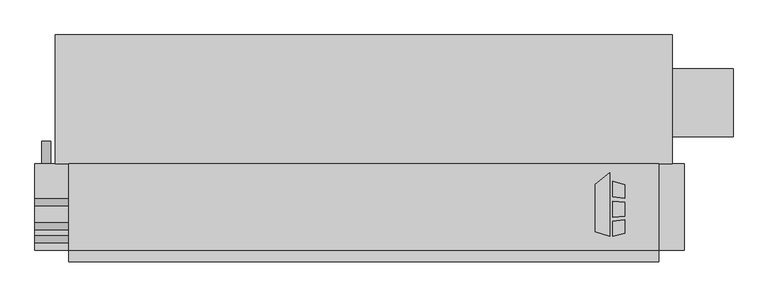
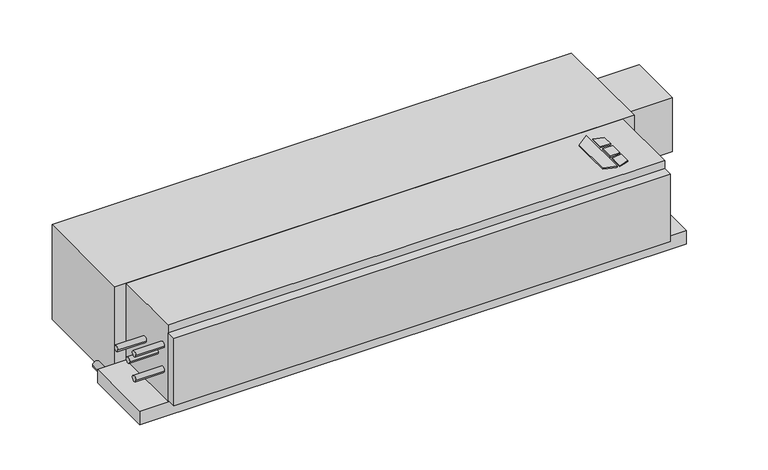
"""IFC4 building model written with IfcOpenShell, lengths in millimetres: proxy geometry, Concealed_Horizontal_Fan_Coil_Unit_With_Plenum_-_CPY_-_IEC_-_4-Pipe_LH_2022 : Size 10 - 277v/60Hz/1Ph - 4/1 Coil."""

from ifc_helpers import new_model, si_unit, point, frame, frame_2d, origin, origin_with_axes, place, context, project, spatial, polyline, circle_curve, trimmed, segment, composite_curve, outline, extrude, source, transform, mapped, element, save


def mechanical_equipment_d58d46fc(model_context):
    return source(origin(), model_context, "Body", "SweptSolid", [
        extrude(outline(polyline([(671.2019761, -186.6953476), (703.7602728, -161.2580184), (703.7602728, -303.2125), (671.2019761, -292.9929201), (671.2019761, -186.6953476)])), origin_with_axes(), (0.0, 0.0, 1.0), 3.175),
        extrude(outline(polyline([(710.5186058, -214.567352), (710.5186058, -180.0874379), (736.6, -188.2740115), (736.6, -217.7697446), (710.5186058, -214.567352)])), origin_with_axes(), (0.0, 0.0, 1.0), 3.175),
        extrude(outline(polyline([(736.6, -296.2240115), (710.5186058, -303.2125), (710.5186058, -269.9911996), (736.6, -266.4493564), (736.6, -296.2240115)])), origin_with_axes(), (0.0, 0.0, 1.0), 3.175),
        extrude(outline(polyline([(736.6, -226.8513277), (736.6, -258.101483), (710.5186058, -260.842748), (710.5186058, -224.9850378), (736.6, -226.8513277)])), origin_with_axes(), (0.0, 0.0, 1.0), 3.175),
        extrude(outline(composite_curve([segment(trimmed(circle_curve(frame_2d((-241.3, -558.8)), 9.525), [point((-241.3, -568.325))], [point((-241.3, -549.275))], False, "CARTESIAN"), True, "CONTINUOUS"), segment(trimmed(circle_curve(frame_2d((-241.3, -558.8)), 9.525), [point((-241.3, -549.275))], [point((-241.3, -568.325))], False, "CARTESIAN"), True, "CONTINUOUS")], self_intersect=False)), frame((0.0, -141.2875, 0.0), z_axis=(0.0, 1.0, 0.0), x_axis=(0.0, 0.0, 1.0)), (0.0, 0.0, 1.0), 50.8),
        extrude(outline(composite_curve([segment(trimmed(circle_curve(frame_2d((-309.5625, -69.85)), 7.9375), [point((-301.625, -69.85))], [point((-317.5, -69.85))], False, "CARTESIAN"), True, "CONTINUOUS"), segment(trimmed(circle_curve(frame_2d((-309.5625, -69.85)), 7.9375), [point((-317.5, -69.85))], [point((-301.625, -69.85))], False, "CARTESIAN"), True, "CONTINUOUS")], self_intersect=False)), frame((-584.2, 0.0, 0.0), z_axis=(1.0, 0.0, 0.0), x_axis=(0.0, 1.0, 0.0)), (0.0, 0.0, 1.0), 76.2),
        extrude(outline(composite_curve([segment(trimmed(circle_curve(frame_2d((-309.5625, -139.7)), 7.9375), [point((-301.625, -139.7))], [point((-317.5, -139.7))], False, "CARTESIAN"), True, "CONTINUOUS"), segment(trimmed(circle_curve(frame_2d((-309.5625, -139.7)), 7.9375), [point((-317.5, -139.7))], [point((-301.625, -139.7))], False, "CARTESIAN"), True, "CONTINUOUS")], self_intersect=False)), frame((-584.2, 0.0, 0.0), z_axis=(1.0, 0.0, 0.0), x_axis=(0.0, 1.0, 0.0)), (0.0, 0.0, 1.0), 76.2),
        extrude(outline(composite_curve([segment(trimmed(circle_curve(frame_2d((-227.0125, -104.775)), 7.9375), [point((-219.075, -104.775))], [point((-234.95, -104.775))], False, "CARTESIAN"), True, "CONTINUOUS"), segment(trimmed(circle_curve(frame_2d((-227.0125, -104.775)), 7.9375), [point((-234.95, -104.775))], [point((-219.075, -104.775))], False, "CARTESIAN"), True, "CONTINUOUS")], self_intersect=False)), frame((-584.2, 0.0, 0.0), z_axis=(1.0, 0.0, 0.0), x_axis=(0.0, 1.0, 0.0)), (0.0, 0.0, 1.0), 76.2),
        extrude(outline(composite_curve([segment(trimmed(circle_curve(frame_2d((-280.9875, -104.775)), 7.9375), [point((-273.05, -104.775))], [point((-288.925, -104.775))], False, "CARTESIAN"), True, "CONTINUOUS"), segment(trimmed(circle_curve(frame_2d((-280.9875, -104.775)), 7.9375), [point((-288.925, -104.775))], [point((-273.05, -104.775))], False, "CARTESIAN"), True, "CONTINUOUS")], self_intersect=False)), frame((-584.2, 0.0, 0.0), z_axis=(1.0, 0.0, 0.0), x_axis=(0.0, 1.0, 0.0)), (0.0, 0.0, 1.0), 76.2),
        extrude(outline(polyline([(812.8, -334.9625), (812.8, -360.3625), (-508.0, -360.3625), (-508.0, -334.9625), (812.8, -334.9625)])), frame((0.0, 0.0, -212.725), z_axis=(0.0, 0.0, 1.0), x_axis=(1.0, 0.0, 0.0)), (0.0, 0.0, 1.0), 190.5),
        extrude(outline(polyline([(812.8, -334.9625), (-508.0, -334.9625), (-508.0, -141.2875), (812.8, -141.2875), (812.8, -334.9625)])), frame((0.0, 0.0, -215.9), z_axis=(0.0, 0.0, 1.0), x_axis=(1.0, 0.0, 0.0)), (0.0, 0.0, 1.0), 215.9),
        extrude(outline(polyline([(869.95, -141.2875), (869.95, -334.9625), (-584.2, -334.9625), (-584.2, -141.2875), (869.95, -141.2875)])), frame((0.0, 0.0, -254.0), z_axis=(0.0, 0.0, 1.0), x_axis=(1.0, 0.0, 0.0)), (0.0, 0.0, 1.0), 38.1),
        extrude(outline(polyline([(979.4875, 71.4375), (979.4875, -80.9625), (842.9625, -80.9625), (842.9625, 71.4375), (979.4875, 71.4375)])), frame((0.0, 0.0, -187.325), z_axis=(0.0, 0.0, 1.0), x_axis=(1.0, 0.0, 0.0)), (0.0, 0.0, 1.0), 152.4),
        extrude(outline(polyline([(-538.1625, 147.6375), (842.9625, 147.6375), (842.9625, -141.2875), (-538.1625, -141.2875), (-538.1625, 147.6375)])), frame((0.0, 0.0, -266.7), z_axis=(0.0, 0.0, 1.0), x_axis=(1.0, 0.0, 0.0)), (0.0, 0.0, 1.0), 266.7),
    ])


if __name__ == "__main__":
    model = new_model("IFC4")
    model_context = context("Model", 3, world=origin())
    ifc_project = project(units=[si_unit("LENGTHUNIT", "METRE", prefix="MILLI")], contexts=[model_context])
    site = spatial("IfcSite", under=ifc_project)
    building = spatial("IfcBuilding", under=site)
    placement = place(None, origin())
    mechanical_equipment_shape = mechanical_equipment_d58d46fc(model_context)
    element("IfcBuildingElementProxy", 1, Name="Concealed_Horizontal_Fan_Coil_Unit_With_Plenum_-_CPY_-_IEC_-_4-Pipe_LH_2022 : Size 10 - 277v/60Hz/1Ph - 4/1 Coil", ObjectType="Concealed_Horizontal_Fan_Coil_Unit_With_Plenum_-_CPY_-_IEC_-_4-Pipe_LH_2022 : Size 10 - 277v/60Hz/1Ph - 4/1 Coil", at=placement, inside=building, context=model_context, shape_type="MappedRepresentation", body=[
        mapped(mechanical_equipment_shape, transform((0.0, 0.0, 0.0), x_axis=(1.0, 0.0, 0.0), y_axis=(0.0, 1.0, 0.0), z_axis=(0.0, 0.0, 1.0))),
    ])
    save(model, "model.ifc")
